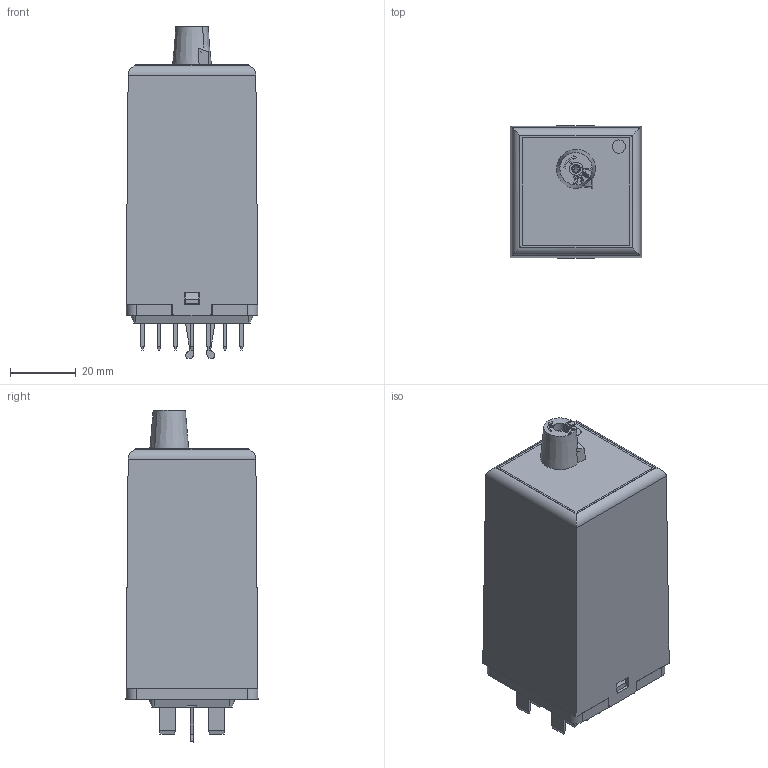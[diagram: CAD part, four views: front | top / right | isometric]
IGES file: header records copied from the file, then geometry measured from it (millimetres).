
Global section: file name: No Iges File Name specified; native system: Autodesk Inventor 2011; preprocessor: AutoDesk Inventor Iges Exporter R2011; author: oey; date: 20110308.133755; units: millimetre
Bounding box: 40 x 40.06 x 100.75 mm (x, y, z)
Volume: 30115.7 mm3; surface area: 36481 mm2
Topology: 1 solids, 1 shells, 1587 faces, 4509 edges, 2874 vertices
Faces by surface type: plane 818, bspline 413, cylinder 163, revolution 156, sphere 28, cone 7, torus 2
